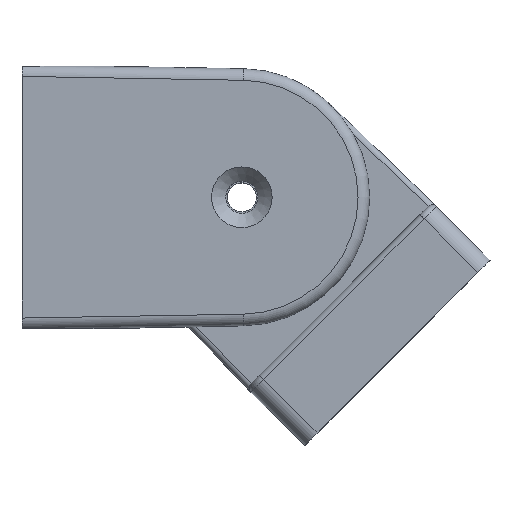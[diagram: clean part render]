
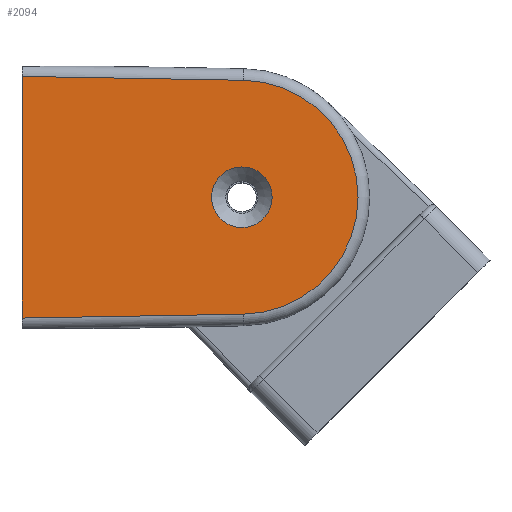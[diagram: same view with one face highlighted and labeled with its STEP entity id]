
A CAD part, top view. The second image highlights one B-rep face of the part: STEP entity #2094.
In plain terms, the highlighted planar face has unit normal (0, 0, 1).
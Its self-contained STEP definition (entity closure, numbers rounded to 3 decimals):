
#111 = VERTEX_POINT ( 'NONE', #1739 ) ;
#153 = DIRECTION ( 'NONE',  ( 0., 0., 1. ) ) ;
#160 = VERTEX_POINT ( 'NONE', #1751 ) ;
#235 = EDGE_CURVE ( 'NONE', #2118, #2118, #1442, .T. ) ;
#258 = DIRECTION ( 'NONE',  ( -1., 0., 0. ) ) ;
#272 = CARTESIAN_POINT ( 'NONE',  ( 37.966, 20.081, 22.5 ) ) ;
#288 = CARTESIAN_POINT ( 'NONE',  ( 37.616, 0., 22.5 ) ) ;
#344 = DIRECTION ( 'NONE',  ( 1., 0.017, 0. ) ) ;
#348 = CARTESIAN_POINT ( 'NONE',  ( 37.75, 0., 22.5 ) ) ;
#470 = CARTESIAN_POINT ( 'NONE',  ( 14., 22.5, 22.5 ) ) ;
#634 = DIRECTION ( 'NONE',  ( 0., 0., -1. ) ) ;
#654 = LINE ( 'NONE', #728, #828 ) ;
#660 = AXIS2_PLACEMENT_3D ( 'NONE', #288, #1977, #809 ) ;
#728 = CARTESIAN_POINT ( 'NONE',  ( 14.75, -20.487, 22.5 ) ) ;
#764 = CARTESIAN_POINT ( 'NONE',  ( 0., 22.5, 22.5 ) ) ;
#809 = DIRECTION ( 'NONE',  ( -1., 0., 0. ) ) ;
#820 = CARTESIAN_POINT ( 'NONE',  ( 37.966, -20.081, 22.5 ) ) ;
#826 = VECTOR ( 'NONE', #2412, 1000. ) ;
#828 = VECTOR ( 'NONE', #344, 1000. ) ;
#938 = EDGE_CURVE ( 'NONE', #160, #111, #2537, .T. ) ;
#949 = DIRECTION ( 'NONE',  ( 1., 0., 0. ) ) ;
#1014 = EDGE_LOOP ( 'NONE', ( #2249, #1168, #1524, #1475 ) ) ;
#1022 = VERTEX_POINT ( 'NONE', #820 ) ;
#1041 = CARTESIAN_POINT ( 'NONE',  ( 13.965, 20.5, 22.5 ) ) ;
#1167 = CARTESIAN_POINT ( 'NONE',  ( 42.95, 0., 22.5 ) ) ;
#1168 = ORIENTED_EDGE ( 'NONE', *, *, #1414, .T. ) ;
#1225 = ORIENTED_EDGE ( 'NONE', *, *, #235, .F. ) ;
#1264 = VECTOR ( 'NONE', #1545, 1000. ) ;
#1384 = VERTEX_POINT ( 'NONE', #272 ) ;
#1414 = EDGE_CURVE ( 'NONE', #1384, #160, #2420, .T. ) ;
#1442 = CIRCLE ( 'NONE', #2306, 5.2 ) ;
#1451 = PLANE ( 'NONE',  #2358 ) ;
#1475 = ORIENTED_EDGE ( 'NONE', *, *, #2221, .T. ) ;
#1524 = ORIENTED_EDGE ( 'NONE', *, *, #938, .T. ) ;
#1545 = DIRECTION ( 'NONE',  ( 0., -1., 0. ) ) ;
#1639 = EDGE_LOOP ( 'NONE', ( #1225 ) ) ;
#1739 = CARTESIAN_POINT ( 'NONE',  ( 0., -20.744, 22.5 ) ) ;
#1751 = CARTESIAN_POINT ( 'NONE',  ( 0., 20.744, 22.5 ) ) ;
#1877 = CIRCLE ( 'NONE', #660, 20.084 ) ;
#1977 = DIRECTION ( 'NONE',  ( 0., 0., 1. ) ) ;
#2045 = FACE_BOUND ( 'NONE', #1639, .T. ) ;
#2064 = EDGE_CURVE ( 'NONE', #1022, #1384, #1877, .T. ) ;
#2094 = ADVANCED_FACE ( 'NONE', ( #2045, #2437 ), #1451, .F. ) ;
#2118 = VERTEX_POINT ( 'NONE', #1167 ) ;
#2221 = EDGE_CURVE ( 'NONE', #111, #1022, #654, .T. ) ;
#2249 = ORIENTED_EDGE ( 'NONE', *, *, #2064, .T. ) ;
#2306 = AXIS2_PLACEMENT_3D ( 'NONE', #348, #153, #949 ) ;
#2358 = AXIS2_PLACEMENT_3D ( 'NONE', #470, #634, #258 ) ;
#2412 = DIRECTION ( 'NONE',  ( -1., 0.017, 0. ) ) ;
#2420 = LINE ( 'NONE', #1041, #826 ) ;
#2437 = FACE_OUTER_BOUND ( 'NONE', #1014, .T. ) ;
#2537 = LINE ( 'NONE', #764, #1264 ) ;
